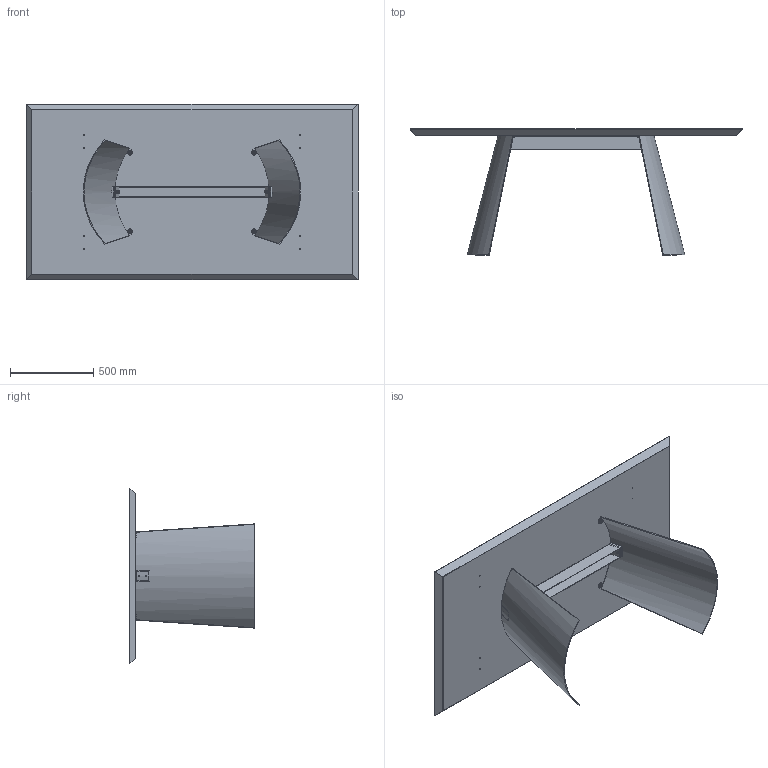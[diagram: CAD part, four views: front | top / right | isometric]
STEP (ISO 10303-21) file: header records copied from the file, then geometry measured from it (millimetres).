
FILE_DESCRIPTION (( 'STEP AP203' ), '1' );
FILE_NAME ('DN21W.STEP', '2024-08-07T15:04:27', ( '' ), ( '' ), 'SwSTEP 2.0', 'SolidWorks 2022', '' );
FILE_SCHEMA (( 'CONFIG_CONTROL_DESIGN' ));
Length unit declared in the file: millimetre
Products named in the file (14): DNB300000_03-02-PIASTRINA; M8xXXmm_M8x20mm; SDNB300000-02-GAMBA X TRASP; GRANO M8X35_barra; rondella M8X24; DNBX00000-01-DORIAN TRAVERSO LXXXX PER TAVOLO LX00_L.970; rondella M8_8X16; DNB300000_01-02-GAMBA DORIAN; W2XCMXX-00-Piani Rettangolari in legno_2000 x 1060; DN21W; nut_M8_M8; DNB300000_02-02-RISCONTRO STANGONE CENTRALE; feltro Ø12x3; DNB400000-02-ASSIEME STRUTTURA COMPLETA_L.960
Assembly tree (33 placements, depth 4):
  DN21W
    W2XCMXX-00-Piani Rettangolari in legno_2000 x 1060
    DNB400000-02-ASSIEME STRUTTURA COMPLETA_L.960
      SDNB300000-02-GAMBA X TRASP  x2
        DNB300000_01-02-GAMBA DORIAN
        DNB300000_02-02-RISCONTRO STANGONE CENTRALE
        DNB300000_03-02-PIASTRINA
      DNBX00000-01-DORIAN TRAVERSO LXXXX PER TAVOLO LX00_L.970
    GRANO M8X35_barra  x4
    rondella M8_8X16  x4
    nut_M8_M8  x4
    M8xXXmm_M8x20mm  x4
    rondella M8X24  x4
    feltro Ø12x3  x4
Bounding box: 2000 x 758 x 1060 mm (x, y, z)
Volume: 82345870.3 mm3; surface area: 6738938 mm2
Topology: 36 solids, 36 shells, 626 faces, 1448 edges, 875 vertices
Faces by surface type: plane 236, cylinder 170, cone 122, torus 80, bspline 18
Entity records: 11274 total; most frequent: CARTESIAN_POINT 2292, DIRECTION 1490, ORIENTED_EDGE 1404, EDGE_CURVE 702, AXIS2_PLACEMENT_3D 551, VERTEX_POINT 447, VECTOR 388, LINE 388
